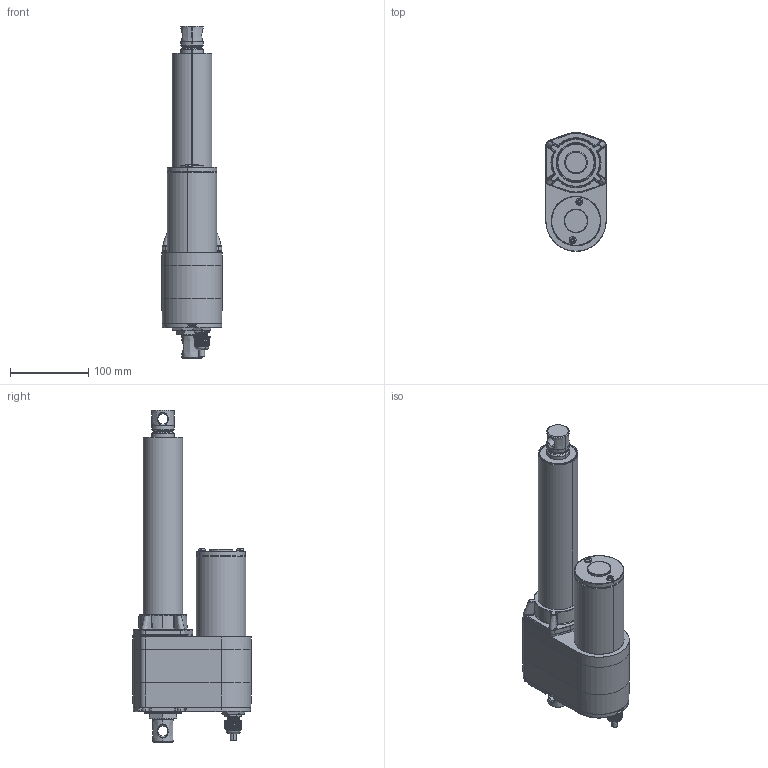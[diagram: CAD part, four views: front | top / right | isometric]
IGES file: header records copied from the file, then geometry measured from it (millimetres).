
Start section: SolidWorks IGES file using analytic representation for surfaces
Global section: file name: C:\Users\lynn\Desktop\工作用資料夾\3D CAD Models Community\ID10(over)\新增IP69\ID10\3D\ID10-B-102-LT-IP69K\ID10-B-102-LT-IP69K.IGS; native system: SolidWorks 2020; preprocessor: SolidWorks 2020; author: lynn; date: 221005.085956; units: millimetre
Bounding box: 77.3 x 151.8 x 424.5 mm (x, y, z)
Surface area: 184259.3 mm2 (no closed solid volume)
Topology: 0 solids, 0 shells, 2296 faces, 21688 edges, 21640 vertices
Faces by surface type: bspline 1474, revolution 822
